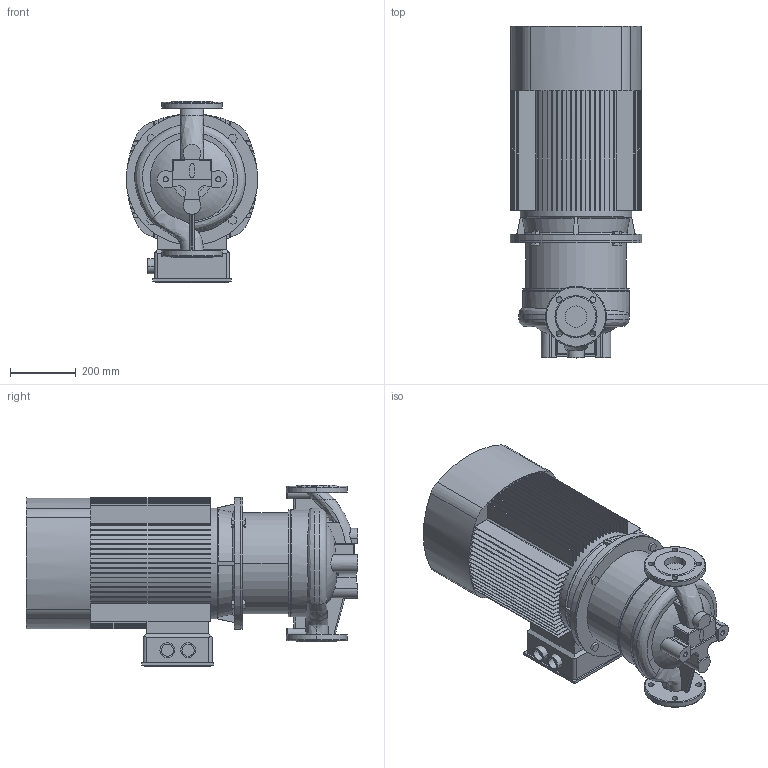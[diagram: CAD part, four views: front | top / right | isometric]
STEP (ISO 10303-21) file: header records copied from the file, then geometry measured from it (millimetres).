
FILE_DESCRIPTION (( 'STEP AP203' ), '1' );
FILE_NAME ('TD65-85G_2.STEP', '2022-04-28T15:05:30', ( '' ), ( '' ), 'SwSTEP 2.0', 'SolidWorks 2019', '' );
FILE_SCHEMA (( 'CONFIG_CONTROL_DESIGN' ));
Length unit declared in the file: millimetre
Products named in the file (4): ED_B5_YE2-200L1-2 (30); Fon_65_TD65-85G_2; TD65-85G_2; Pr_ch 65 - 61_68_85_TD65-85G_2
Assembly tree (3 placements, depth 2):
  TD65-85G_2
    Pr_ch 65 - 61_68_85_TD65-85G_2
    Fon_65_TD65-85G_2
    ED_B5_YE2-200L1-2 (30)
Bounding box: 400 x 1008 x 551 mm (x, y, z)
Volume: 90007712.5 mm3; surface area: 3924309 mm2
Topology: 13 solids, 14 shells, 728 faces, 1980 edges, 1303 vertices
Faces by surface type: plane 511, cylinder 144, torus 28, bspline 26, cone 17, sphere 2
Entity records: 30449 total; most frequent: CARTESIAN_POINT 11395, ORIENTED_EDGE 3956, DIRECTION 3891, EDGE_CURVE 1978, AXIS2_PLACEMENT_3D 1360, VERTEX_POINT 1303, VECTOR 1171, LINE 1171
